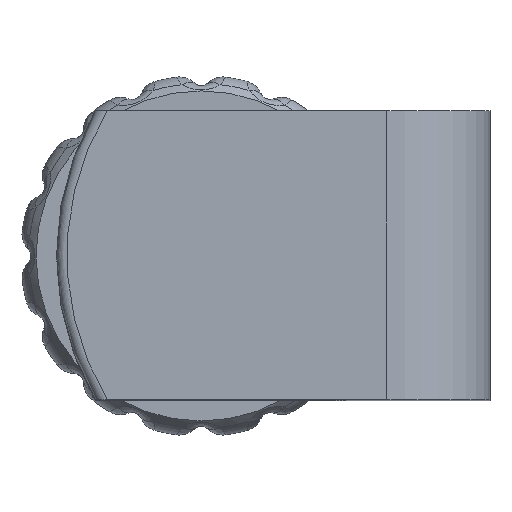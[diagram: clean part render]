
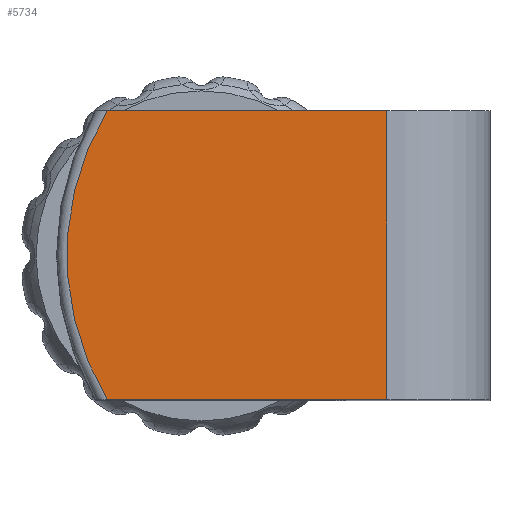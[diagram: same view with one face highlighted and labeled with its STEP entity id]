
A CAD part, top view. The second image highlights one B-rep face of the part: STEP entity #5734.
In plain terms, the highlighted planar face has unit normal (0, 0, 1).
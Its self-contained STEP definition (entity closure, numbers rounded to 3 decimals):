
#324=LINE('',#8125,#563);
#332=LINE('',#8158,#571);
#334=LINE('',#8162,#573);
#563=VECTOR('',#6697,10.);
#571=VECTOR('',#6721,10.);
#573=VECTOR('',#6725,10.);
#795=PLANE('',#6128);
#829=FACE_OUTER_BOUND('',#1198,.T.);
#1198=EDGE_LOOP('',(#3828,#3829,#3830,#3831));
#1576=CIRCLE('',#6129,27.);
#2284=VERTEX_POINT('',#8122);
#2285=VERTEX_POINT('',#8124);
#2292=VERTEX_POINT('',#8156);
#2293=VERTEX_POINT('',#8161);
#2863=EDGE_CURVE('',#2285,#2284,#324,.T.);
#2875=EDGE_CURVE('',#2292,#2284,#332,.T.);
#2877=EDGE_CURVE('',#2292,#2293,#334,.T.);
#2878=EDGE_CURVE('',#2285,#2293,#1576,.T.);
#3828=ORIENTED_EDGE('',*,*,#2875,.F.);
#3829=ORIENTED_EDGE('',*,*,#2877,.T.);
#3830=ORIENTED_EDGE('',*,*,#2878,.F.);
#3831=ORIENTED_EDGE('',*,*,#2863,.T.);
#5734=ADVANCED_FACE('',(#829),#795,.T.);
#6128=AXIS2_PLACEMENT_3D('',#8160,#6723,#6724);
#6129=AXIS2_PLACEMENT_3D('',#8163,#6726,#6727);
#6697=DIRECTION('',(1.,0.,0.));
#6721=DIRECTION('',(0.,-1.,0.));
#6723=DIRECTION('center_axis',(0.,0.,1.));
#6724=DIRECTION('ref_axis',(1.,0.,0.));
#6725=DIRECTION('',(-1.,0.,0.));
#6726=DIRECTION('center_axis',(0.,0.,-1.));
#6727=DIRECTION('ref_axis',(-1.,0.,0.));
#8122=CARTESIAN_POINT('',(-10.,-14.,46.4));
#8124=CARTESIAN_POINT('',(-37.087,-14.,46.4));
#8125=CARTESIAN_POINT('',(-29.624,-14.,46.4));
#8156=CARTESIAN_POINT('',(-10.,14.,46.4));
#8158=CARTESIAN_POINT('',(-10.,-7.,46.4));
#8160=CARTESIAN_POINT('Origin',(-21.,0.,46.4));
#8161=CARTESIAN_POINT('',(-37.087,14.,46.4));
#8162=CARTESIAN_POINT('',(-10.5,14.,46.4));
#8163=CARTESIAN_POINT('Origin',(-14.,0.,46.4));
